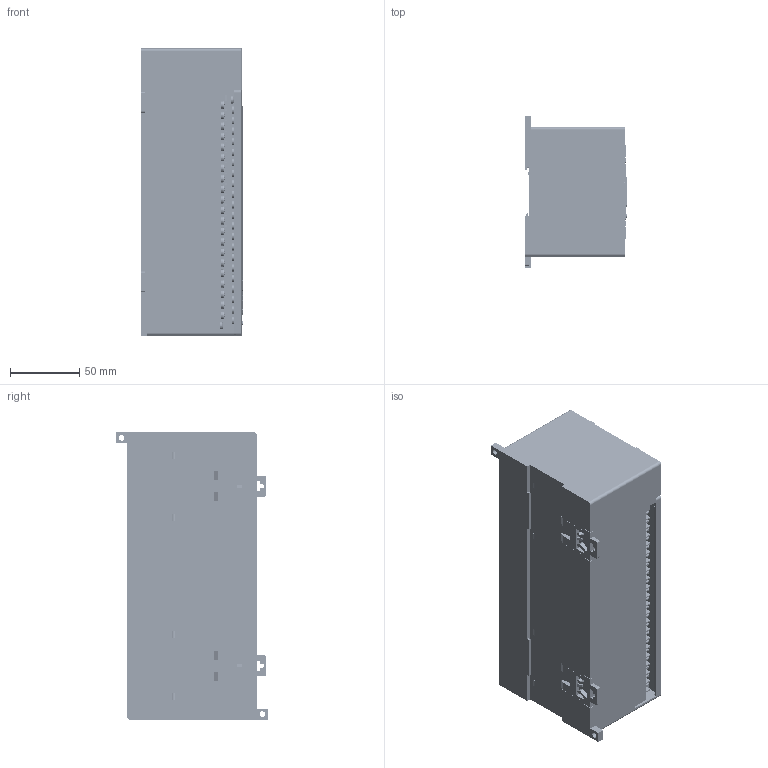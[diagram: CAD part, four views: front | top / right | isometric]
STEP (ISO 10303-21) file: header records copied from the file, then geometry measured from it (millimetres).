
FILE_DESCRIPTION (( 'STEP AP214' ), '1' );
FILE_NAME ('ﾏﾋﾊ160.STEP', '2015-09-28T12:21:35', ( 'adm' ), ( 'owen' ), 'SwSTEP 2.0', 'SolidWorks 2013', '' );
FILE_SCHEMA (( 'AUTOMOTIVE_DESIGN' ));
Length unit declared in the file: millimetre
Products named in the file (13): pan head cross recess screw_iso Ì3õ20_ISO 7045 - M3 x 10 - Z --- 10N; pan head cross recess screw_iso Ì3õ20_ISO 7045 - M3 x 20 - Z --- 20N; Øàéáà êâàäðàòíàÿ Ì3; Êîðïóñ ÏËÊ160; Êëåììíàÿ êîëîäêà; ﾏﾋﾊ160; USB ðîçåòêà; Ethernet; PLC160_001FA02M; 婰膲僗闉; Êðûøêà ïðîçðà÷íàÿ; RS232; Ñáîðêà êëåììíàÿ êîëîäêà
Assembly tree (99 placements, depth 3):
  ﾏﾋﾊ160
    Êðûøêà ïðîçðà÷íàÿ  x2
    RS232  x2
    PLC160_001FA02M
    婰膲僗闉  x2
    Ñáîðêà êëåììíàÿ êîëîäêà  x2
      pan head cross recess screw_iso Ì3õ20_ISO 7045 - M3 x 10 - Z --- 10N
      Øàéáà êâàäðàòíàÿ Ì3
      Êëåììíàÿ êîëîäêà
      pan head cross recess screw_iso Ì3õ20_ISO 7045 - M3 x 20 - Z --- 20N
    USB ðîçåòêà
    Êîðïóñ ÏËÊ160
    Ethernet
Bounding box: 74.5 x 110 x 208 mm (x, y, z)
Volume: 1331729.2 mm3; surface area: 213708.5 mm2
Topology: 186 solids, 186 shells, 8539 faces, 21165 edges, 13272 vertices
Faces by surface type: plane 5009, cylinder 1376, cone 968, bspline 658, torus 352, sphere 176
Entity records: 174297 total; most frequent: CARTESIAN_POINT 67328, ORIENTED_EDGE 17838, DIRECTION 13541, EDGE_CURVE 8919, VERTEX_POINT 5919, VECTOR 5583, LINE 5583, AXIS2_PLACEMENT_3D 3979
